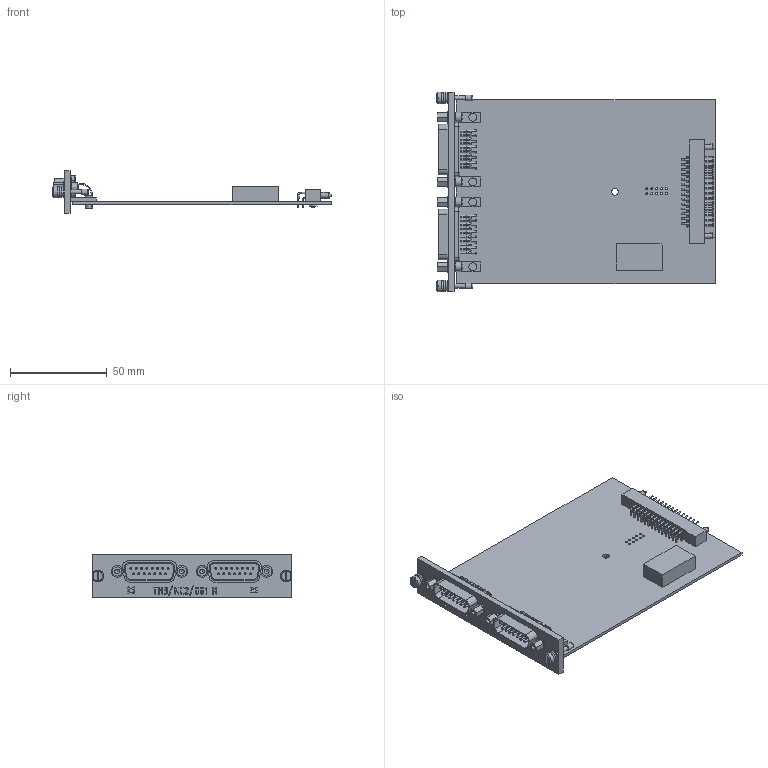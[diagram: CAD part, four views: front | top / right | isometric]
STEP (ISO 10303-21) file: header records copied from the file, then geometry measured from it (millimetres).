
FILE_DESCRIPTION(('STEP AP203'), '1');
FILE_NAME('帎迗.468153.004 沓劌錪 眝3_庍2_001', '', ('UNSPECIFIED'), ('UNSPECIFIED'), 'C3D Converter', 'C3D Toolkit', '');
FILE_SCHEMA(('CONFIG_CONTROL_DESIGN'));
Length unit declared in the file: millimetre
Products named in the file (1): КМНТ.468153.004
Bounding box: 143.9 x 103 x 21.7 mm (x, y, z)
Surface area: 41480.2 mm2 (no closed solid volume)
Topology: 0 solids, 1 shells, 1802 faces, 4911 edges, 3133 vertices
Faces by surface type: cylinder 885, plane 714, torus 69, sphere 60, revolution 58, cone 16
Full cylindrical faces by diameter (mm): 0.6 x163, 0.8 x29, 1 x105, 1.6 x2, 2 x2, 2.459 x6, 2.49 x2, 2.5 x2, 2.7 x2, 3 x10, 3.1 x4, 3.2 x4, 3.4 x2, 3.5 x5, 4 x4, 5 x4, 6 x10
Entity records: 75419 total; most frequent: CARTESIAN_POINT 16087, DIRECTION 9796, ORIENTED_EDGE 8500, EDGE_CURVE 4250, AXIS2_PLACEMENT_3D 3888, VERTEX_POINT 3128, EDGE_LOOP 2696, FACE_BOUND 2148
